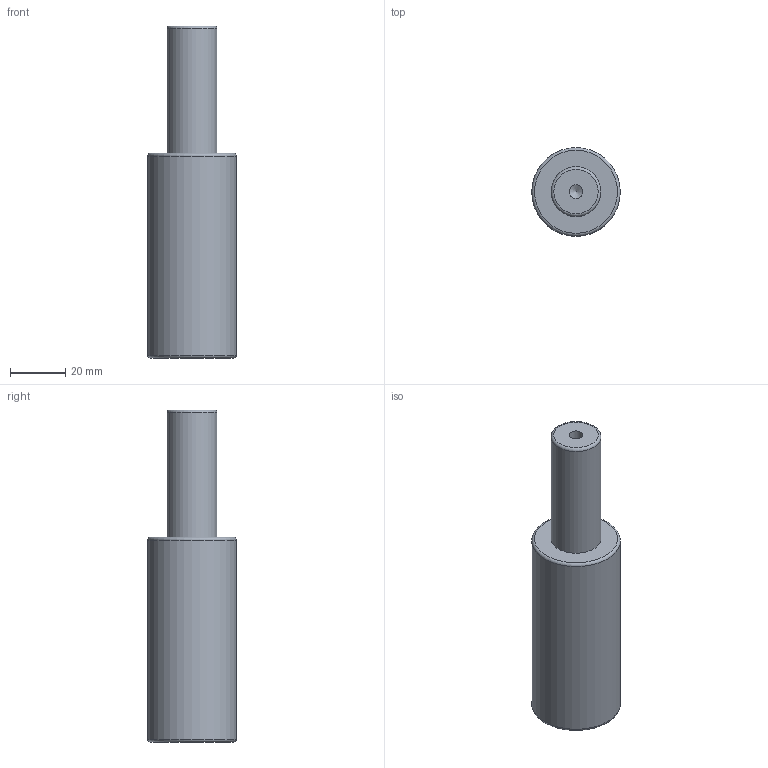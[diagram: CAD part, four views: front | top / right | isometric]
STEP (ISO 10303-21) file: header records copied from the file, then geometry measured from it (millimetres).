
FILE_DESCRIPTION(/* description */ (''),/* implementation_level */ '2;1');
FILE_NAME(/* name */ 'NV5-SMLX.32x45.stp',/* time_stamp */ '2018-08-31T16:08:36+02:00',/* author */ (''),/* organization */ (''),/* preprocessor_version */ 'ST-DEVELOPER v16',/* originating_system */ 'SIEMENS PLM Software NX 10.0',/* authorisation */ '');
FILE_SCHEMA (('AUTOMOTIVE_DESIGN { 1 0 10303 214 3 1 1 1 }'));
Length unit declared in the file: millimetre
Products named in the file (1): NV5-SMLX.32x45
Bounding box: 32 x 32 x 120 mm (x, y, z)
Volume: 70713.9 mm3; surface area: 11889.2 mm2
Topology: 1 solids, 1 shells, 12 faces, 24 edges, 15 vertices
Faces by surface type: cylinder 4, torus 3, plane 3, cone 2
Full cylindrical faces by diameter (mm): 5 x2, 18 x1, 32 x1
Entity records: 266 total; most frequent: DIRECTION 48, CARTESIAN_POINT 37, FACE_BOUND 24, AXIS2_PLACEMENT_3D 24, EDGE_LOOP 22, ORIENTED_EDGE 22, VERTEX_POINT 13, ADVANCED_FACE 12
